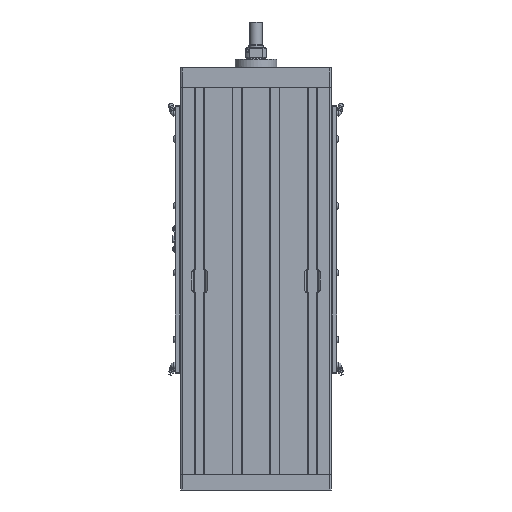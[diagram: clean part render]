
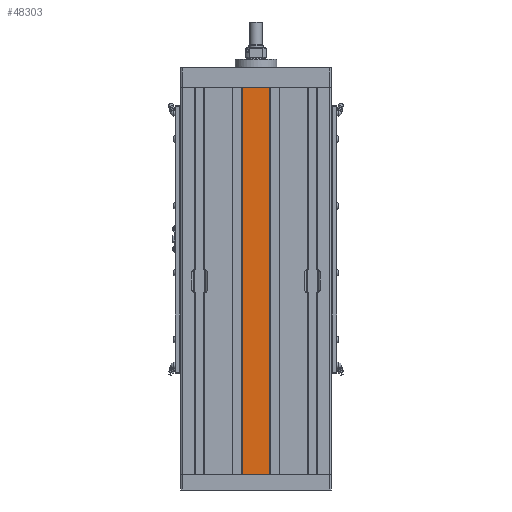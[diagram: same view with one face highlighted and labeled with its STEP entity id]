
A CAD part, front view. The second image highlights one B-rep face of the part: STEP entity #48303.
In plain terms, the highlighted planar face has unit normal (0, -1, 0).
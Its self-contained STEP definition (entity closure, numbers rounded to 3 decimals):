
#1910=PLANE('',#51622);
#3603=FACE_OUTER_BOUND('',#6350,.T.);
#6350=EDGE_LOOP('',(#33354,#33355,#33356,#33357));
#9543=LINE('',#70357,#13893);
#9720=LINE('',#70869,#14070);
#9977=LINE('',#71476,#14327);
#9978=LINE('',#71478,#14328);
#13893=VECTOR('',#56484,10.);
#14070=VECTOR('',#56829,10.);
#14327=VECTOR('',#57484,10.);
#14328=VECTOR('',#57487,10.);
#20250=VERTEX_POINT('',#70354);
#20251=VERTEX_POINT('',#70356);
#20501=VERTEX_POINT('',#70866);
#20502=VERTEX_POINT('',#70868);
#25030=EDGE_CURVE('',#20250,#20251,#9543,.T.);
#25289=EDGE_CURVE('',#20501,#20502,#9720,.T.);
#25593=EDGE_CURVE('',#20250,#20502,#9977,.T.);
#25594=EDGE_CURVE('',#20251,#20501,#9978,.T.);
#33354=ORIENTED_EDGE('',*,*,#25593,.T.);
#33355=ORIENTED_EDGE('',*,*,#25289,.F.);
#33356=ORIENTED_EDGE('',*,*,#25594,.F.);
#33357=ORIENTED_EDGE('',*,*,#25030,.F.);
#48303=ADVANCED_FACE('',(#3603),#1910,.T.);
#51622=AXIS2_PLACEMENT_3D('',#71477,#57485,#57486);
#56484=DIRECTION('',(-1.,0.,0.));
#56829=DIRECTION('',(1.,0.,0.));
#57484=DIRECTION('',(0.,0.,1.));
#57485=DIRECTION('center_axis',(0.,-1.,0.));
#57486=DIRECTION('ref_axis',(1.,0.,0.));
#57487=DIRECTION('',(0.,0.,1.));
#70354=CARTESIAN_POINT('',(16.4,-45.,-282.));
#70356=CARTESIAN_POINT('',(-16.4,-45.,-282.));
#70357=CARTESIAN_POINT('',(16.4,-45.,-282.));
#70866=CARTESIAN_POINT('',(-16.4,-45.,182.));
#70868=CARTESIAN_POINT('',(16.4,-45.,182.));
#70869=CARTESIAN_POINT('',(-16.4,-45.,182.));
#71476=CARTESIAN_POINT('',(16.4,-45.,0.));
#71477=CARTESIAN_POINT('Origin',(-16.4,-45.,0.));
#71478=CARTESIAN_POINT('',(-16.4,-45.,0.));
